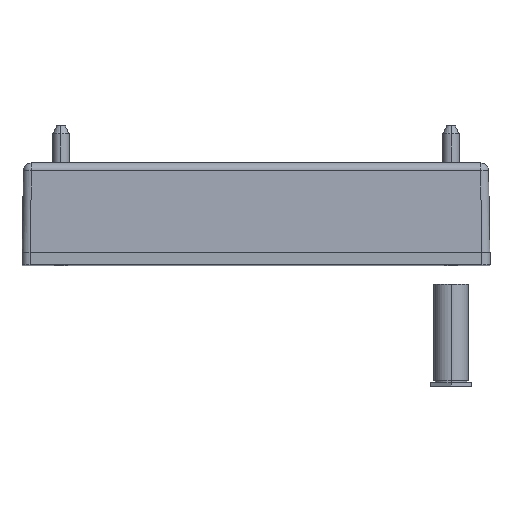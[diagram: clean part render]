
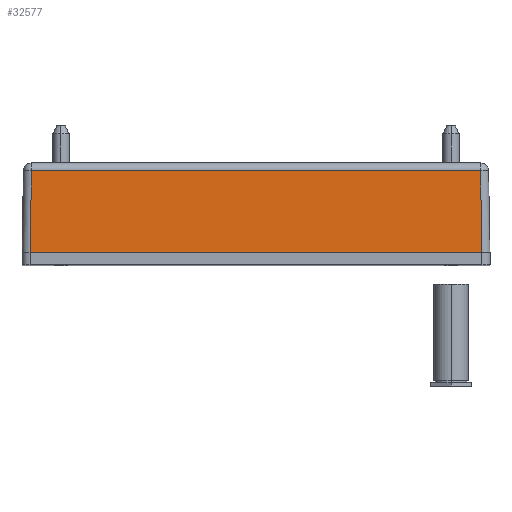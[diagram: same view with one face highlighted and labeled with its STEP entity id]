
A CAD part, top view. The second image highlights one B-rep face of the part: STEP entity #32577.
In plain terms, the highlighted planar face has unit normal (0, 0.018, 1).
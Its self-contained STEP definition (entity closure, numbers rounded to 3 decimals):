
#132 = ORIENTED_EDGE ( 'NONE', *, *, #28255, .T. ) ;
#678 = VECTOR ( 'NONE', #16500, 1000. ) ;
#1319 = VECTOR ( 'NONE', #37272, 1000. ) ;
#2668 = VERTEX_POINT ( 'NONE', #8609 ) ;
#3643 = DIRECTION ( 'NONE',  ( 0., -1., 0.017 ) ) ;
#5691 = CARTESIAN_POINT ( 'NONE',  ( -27.95, -0.017, 30.5 ) ) ;
#6300 = ORIENTED_EDGE ( 'NONE', *, *, #17946, .T. ) ;
#8609 = CARTESIAN_POINT ( 'NONE',  ( 27.774, 10.117, 30.323 ) ) ;
#11390 = EDGE_LOOP ( 'NONE', ( #28848, #25967, #132, #6300 ) ) ;
#11794 = CARTESIAN_POINT ( 'NONE',  ( 27.933, 0.993, 30.483 ) ) ;
#13128 = EDGE_CURVE ( 'NONE', #22819, #35826, #21932, .T. ) ;
#16500 = DIRECTION ( 'NONE',  ( -0.017, 1., -0.017 ) ) ;
#17055 = LINE ( 'NONE', #34707, #50258 ) ;
#17606 = DIRECTION ( 'NONE',  ( 1., 0., 0. ) ) ;
#17914 = CARTESIAN_POINT ( 'NONE',  ( -27.774, 10.117, 30.323 ) ) ;
#17946 = EDGE_CURVE ( 'NONE', #39195, #22819, #40221, .T. ) ;
#19035 = VECTOR ( 'NONE', #17606, 1000. ) ;
#21254 = DIRECTION ( 'NONE',  ( -1., 0., 0. ) ) ;
#21764 = PLANE ( 'NONE',  #36230 ) ;
#21932 = LINE ( 'NONE', #26288, #19035 ) ;
#22819 = VERTEX_POINT ( 'NONE', #34530 ) ;
#23745 = FACE_OUTER_BOUND ( 'NONE', #11390, .T. ) ;
#23934 = LINE ( 'NONE', #11794, #678 ) ;
#25967 = ORIENTED_EDGE ( 'NONE', *, *, #43343, .T. ) ;
#26288 = CARTESIAN_POINT ( 'NONE',  ( -28.95, 0., 30.5 ) ) ;
#28255 = EDGE_CURVE ( 'NONE', #2668, #39195, #17055, .T. ) ;
#28848 = ORIENTED_EDGE ( 'NONE', *, *, #13128, .T. ) ;
#32094 = CARTESIAN_POINT ( 'NONE',  ( 27.95, 0., 30.5 ) ) ;
#32577 = ADVANCED_FACE ( 'NONE', ( #23745 ), #21764, .T. ) ;
#34530 = CARTESIAN_POINT ( 'NONE',  ( -27.95, 0., 30.5 ) ) ;
#34707 = CARTESIAN_POINT ( 'NONE',  ( -28.756, 10.117, 30.323 ) ) ;
#35826 = VERTEX_POINT ( 'NONE', #32094 ) ;
#36230 = AXIS2_PLACEMENT_3D ( 'NONE', #39177, #51785, #3643 ) ;
#37272 = DIRECTION ( 'NONE',  ( -0.017, -1., 0.017 ) ) ;
#39177 = CARTESIAN_POINT ( 'NONE',  ( -28.95, 0., 30.5 ) ) ;
#39195 = VERTEX_POINT ( 'NONE', #17914 ) ;
#40221 = LINE ( 'NONE', #5691, #1319 ) ;
#43343 = EDGE_CURVE ( 'NONE', #35826, #2668, #23934, .T. ) ;
#50258 = VECTOR ( 'NONE', #21254, 1000. ) ;
#51785 = DIRECTION ( 'NONE',  ( 0., 0.017, 1. ) ) ;
